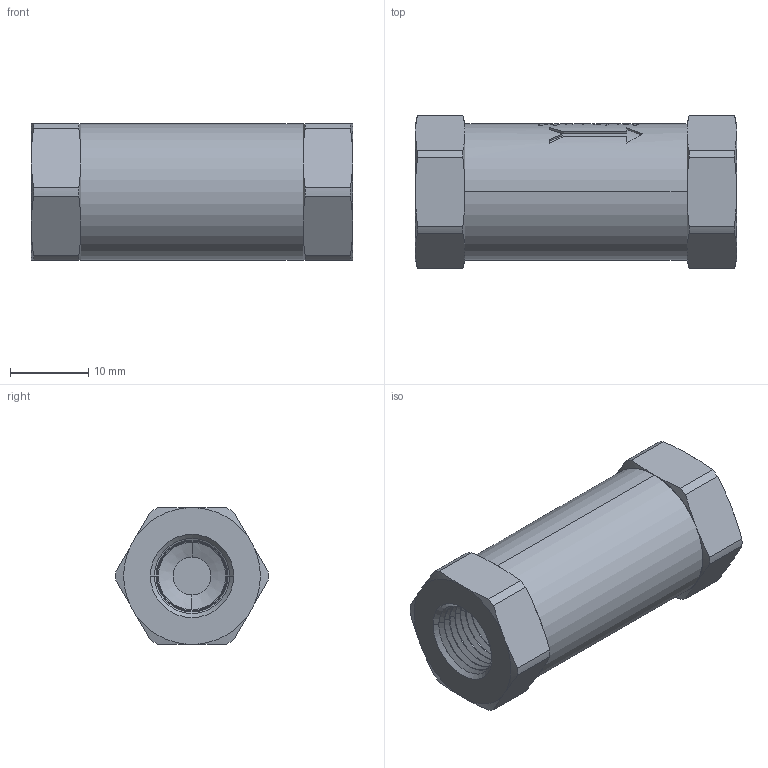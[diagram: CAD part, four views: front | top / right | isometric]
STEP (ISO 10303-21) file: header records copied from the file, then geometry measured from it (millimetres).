
FILE_DESCRIPTION (( 'STEP AP203' ), '1' );
FILE_NAME ('DCV-125B.STEP', '2019-07-25T12:09:38', ( '' ), ( '' ), 'SwSTEP 2.0', 'SolidWorks 2011', '' );
FILE_SCHEMA (( 'CONFIG_CONTROL_DESIGN' ));
Length unit declared in the file: inch
Products named in the file (2): DCV-125B; Part2^DCV-125_CM
Assembly tree (1 placements, depth 2):
  DCV-125B
    Part2^DCV-125_CM
Bounding box: 41.17 x 19.55 x 17.46 mm (x, y, z)
Volume: 8503.4 mm3; surface area: 3970.9 mm2
Topology: 1 solids, 1 shells, 440 faces, 1082 edges, 667 vertices
Faces by surface type: cone 172, plane 157, bspline 70, cylinder 41
Entity records: 17643 total; most frequent: CARTESIAN_POINT 7604, ORIENTED_EDGE 2160, DIRECTION 1882, EDGE_CURVE 1080, AXIS2_PLACEMENT_3D 714, VERTEX_POINT 667, EDGE_LOOP 465, VECTOR 454
